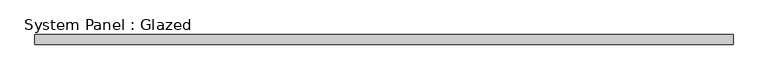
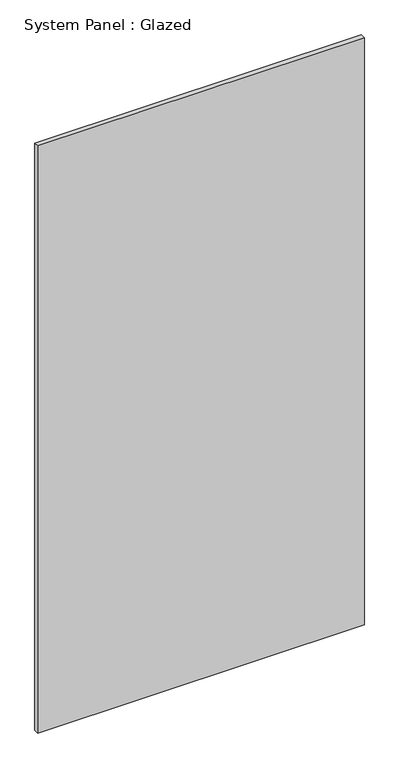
"""IFC4 building model written with IfcOpenShell, lengths in millimetres: plate geometry, System Panel : Glazed."""

from ifc_helpers import new_model, si_unit, origin, origin_with_axes, place, context, project, spatial, polyline, outline, extrude, source, transform, mapped, element, save


def system_panel_glazed_00caa3d2(model_context):
    return source(origin(), model_context, "Body", "SweptSolid", [
        extrude(outline(polyline([(882.65, 19.05), (-882.65, 19.05), (-882.65, 44.45), (882.65, 44.45), (882.65, 19.05)])), origin_with_axes(), (0.0, 0.0, 1.0), 3352.8),
    ])


if __name__ == "__main__":
    model = new_model("IFC4")
    model_context = context("Model", 3, world=origin())
    ifc_project = project(units=[si_unit("LENGTHUNIT", "METRE", prefix="MILLI")], contexts=[model_context])
    site = spatial("IfcSite", under=ifc_project)
    building = spatial("IfcBuilding", under=site)
    placement = place(None, origin())
    system_panel_glazed_shape = system_panel_glazed_00caa3d2(model_context)
    element("IfcPlate", 1, ObjectType="System Panel : Glazed", at=placement, inside=building, context=model_context, shape_type="MappedRepresentation", body=[
        mapped(system_panel_glazed_shape, transform((0.0, 0.0, 0.0), x_axis=(1.0, 0.0, 0.0), y_axis=(0.0, 1.0, 0.0), z_axis=(0.0, 0.0, 1.0))),
    ])
    save(model, "model.ifc")
